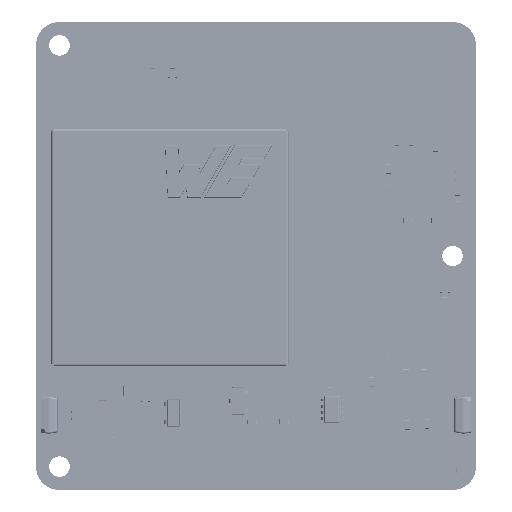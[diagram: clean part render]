
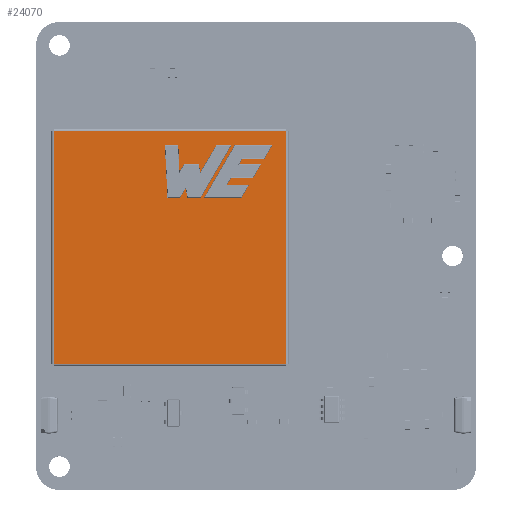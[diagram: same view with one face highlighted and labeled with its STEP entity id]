
A CAD part, top view. The second image highlights one B-rep face of the part: STEP entity #24070.
In plain terms, the highlighted planar face has unit normal (0, 0, 1).
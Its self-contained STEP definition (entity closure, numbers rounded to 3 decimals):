
#24070 = ADVANCED_FACE('',(#24071,#24105,#24203),#24309,.F.);
#24071 = FACE_BOUND('',#24072,.T.);
#24072 = EDGE_LOOP('',(#24073,#24083,#24091,#24099));
#24073 = ORIENTED_EDGE('',*,*,#24074,.F.);
#24074 = EDGE_CURVE('',#24075,#24077,#24079,.T.);
#24075 = VERTEX_POINT('',#24076);
#24076 = CARTESIAN_POINT('',(12.4,-12.4,3.2));
#24077 = VERTEX_POINT('',#24078);
#24078 = CARTESIAN_POINT('',(-12.4,-12.4,3.2));
#24079 = LINE('',#24080,#24081);
#24080 = CARTESIAN_POINT('',(-12.5,-12.4,3.2));
#24081 = VECTOR('',#24082,1.);
#24082 = DIRECTION('',(-1.,0.,0.));
#24083 = ORIENTED_EDGE('',*,*,#24084,.T.);
#24084 = EDGE_CURVE('',#24075,#24085,#24087,.T.);
#24085 = VERTEX_POINT('',#24086);
#24086 = CARTESIAN_POINT('',(12.4,12.4,3.2));
#24087 = LINE('',#24088,#24089);
#24088 = CARTESIAN_POINT('',(12.4,12.4,3.2));
#24089 = VECTOR('',#24090,1.);
#24090 = DIRECTION('',(0.,1.,0.));
#24091 = ORIENTED_EDGE('',*,*,#24092,.T.);
#24092 = EDGE_CURVE('',#24085,#24093,#24095,.T.);
#24093 = VERTEX_POINT('',#24094);
#24094 = CARTESIAN_POINT('',(-12.4,12.4,3.2));
#24095 = LINE('',#24096,#24097);
#24096 = CARTESIAN_POINT('',(-12.5,12.4,3.2));
#24097 = VECTOR('',#24098,1.);
#24098 = DIRECTION('',(-1.,0.,0.));
#24099 = ORIENTED_EDGE('',*,*,#24100,.T.);
#24100 = EDGE_CURVE('',#24093,#24077,#24101,.T.);
#24101 = LINE('',#24102,#24103);
#24102 = CARTESIAN_POINT('',(-12.4,12.4,3.2));
#24103 = VECTOR('',#24104,1.);
#24104 = DIRECTION('',(0.,-1.,0.));
#24105 = FACE_BOUND('',#24106,.T.);
#24106 = EDGE_LOOP('',(#24107,#24117,#24125,#24133,#24141,#24149,#24157,
    #24165,#24173,#24181,#24189,#24197));
#24107 = ORIENTED_EDGE('',*,*,#24108,.T.);
#24108 = EDGE_CURVE('',#24109,#24111,#24113,.T.);
#24109 = VERTEX_POINT('',#24110);
#24110 = CARTESIAN_POINT('',(6.915,10.925,3.2));
#24111 = VERTEX_POINT('',#24112);
#24112 = CARTESIAN_POINT('',(10.944,10.925,3.2));
#24113 = LINE('',#24114,#24115);
#24114 = CARTESIAN_POINT('',(6.915,10.925,3.2));
#24115 = VECTOR('',#24116,1.);
#24116 = DIRECTION('',(1.,0.,0.));
#24117 = ORIENTED_EDGE('',*,*,#24118,.T.);
#24118 = EDGE_CURVE('',#24111,#24119,#24121,.T.);
#24119 = VERTEX_POINT('',#24120);
#24120 = CARTESIAN_POINT('',(10.1,9.492,3.2));
#24121 = LINE('',#24122,#24123);
#24122 = CARTESIAN_POINT('',(10.944,10.925,3.2));
#24123 = VECTOR('',#24124,1.);
#24124 = DIRECTION('',(-0.507,-0.862,0.));
#24125 = ORIENTED_EDGE('',*,*,#24126,.T.);
#24126 = EDGE_CURVE('',#24119,#24127,#24129,.T.);
#24127 = VERTEX_POINT('',#24128);
#24128 = CARTESIAN_POINT('',(7.747,9.492,3.2));
#24129 = LINE('',#24130,#24131);
#24130 = CARTESIAN_POINT('',(10.1,9.492,3.2));
#24131 = VECTOR('',#24132,1.);
#24132 = DIRECTION('',(-1.,0.,0.));
#24133 = ORIENTED_EDGE('',*,*,#24134,.T.);
#24134 = EDGE_CURVE('',#24127,#24135,#24137,.T.);
#24135 = VERTEX_POINT('',#24136);
#24136 = CARTESIAN_POINT('',(7.396,8.896,3.2));
#24137 = LINE('',#24138,#24139);
#24138 = CARTESIAN_POINT('',(7.747,9.492,3.2));
#24139 = VECTOR('',#24140,1.);
#24140 = DIRECTION('',(-0.507,-0.862,0.));
#24141 = ORIENTED_EDGE('',*,*,#24142,.T.);
#24142 = EDGE_CURVE('',#24135,#24143,#24145,.T.);
#24143 = VERTEX_POINT('',#24144);
#24144 = CARTESIAN_POINT('',(9.75,8.896,3.2));
#24145 = LINE('',#24146,#24147);
#24146 = CARTESIAN_POINT('',(7.396,8.896,3.2));
#24147 = VECTOR('',#24148,1.);
#24148 = DIRECTION('',(1.,0.,0.));
#24149 = ORIENTED_EDGE('',*,*,#24150,.T.);
#24150 = EDGE_CURVE('',#24143,#24151,#24153,.T.);
#24151 = VERTEX_POINT('',#24152);
#24152 = CARTESIAN_POINT('',(8.907,7.465,3.2));
#24153 = LINE('',#24154,#24155);
#24154 = CARTESIAN_POINT('',(9.75,8.896,3.2));
#24155 = VECTOR('',#24156,1.);
#24156 = DIRECTION('',(-0.507,-0.862,0.));
#24157 = ORIENTED_EDGE('',*,*,#24158,.T.);
#24158 = EDGE_CURVE('',#24151,#24159,#24161,.T.);
#24159 = VERTEX_POINT('',#24160);
#24160 = CARTESIAN_POINT('',(6.554,7.465,3.2));
#24161 = LINE('',#24162,#24163);
#24162 = CARTESIAN_POINT('',(8.907,7.465,3.2));
#24163 = VECTOR('',#24164,1.);
#24164 = DIRECTION('',(-1.,0.,0.));
#24165 = ORIENTED_EDGE('',*,*,#24166,.T.);
#24166 = EDGE_CURVE('',#24159,#24167,#24169,.T.);
#24167 = VERTEX_POINT('',#24168);
#24168 = CARTESIAN_POINT('',(6.117,6.722,3.2));
#24169 = LINE('',#24170,#24171);
#24170 = CARTESIAN_POINT('',(6.554,7.465,3.2));
#24171 = VECTOR('',#24172,1.);
#24172 = DIRECTION('',(-0.507,-0.862,0.));
#24173 = ORIENTED_EDGE('',*,*,#24174,.T.);
#24174 = EDGE_CURVE('',#24167,#24175,#24177,.T.);
#24175 = VERTEX_POINT('',#24176);
#24176 = CARTESIAN_POINT('',(8.47,6.722,3.2));
#24177 = LINE('',#24178,#24179);
#24178 = CARTESIAN_POINT('',(6.117,6.722,3.2));
#24179 = VECTOR('',#24180,1.);
#24180 = DIRECTION('',(1.,0.,0.));
#24181 = ORIENTED_EDGE('',*,*,#24182,.T.);
#24182 = EDGE_CURVE('',#24175,#24183,#24185,.T.);
#24183 = VERTEX_POINT('',#24184);
#24184 = CARTESIAN_POINT('',(7.643,5.317,3.2));
#24185 = LINE('',#24186,#24187);
#24186 = CARTESIAN_POINT('',(8.47,6.722,3.2));
#24187 = VECTOR('',#24188,1.);
#24188 = DIRECTION('',(-0.507,-0.862,0.));
#24189 = ORIENTED_EDGE('',*,*,#24190,.T.);
#24190 = EDGE_CURVE('',#24183,#24191,#24193,.T.);
#24191 = VERTEX_POINT('',#24192);
#24192 = CARTESIAN_POINT('',(3.647,5.317,3.2));
#24193 = LINE('',#24194,#24195);
#24194 = CARTESIAN_POINT('',(7.643,5.317,3.2));
#24195 = VECTOR('',#24196,1.);
#24196 = DIRECTION('',(-1.,0.,0.));
#24197 = ORIENTED_EDGE('',*,*,#24198,.T.);
#24198 = EDGE_CURVE('',#24191,#24109,#24199,.T.);
#24199 = LINE('',#24200,#24201);
#24200 = CARTESIAN_POINT('',(3.647,5.317,3.2));
#24201 = VECTOR('',#24202,1.);
#24202 = DIRECTION('',(0.504,0.864,0.));
#24203 = FACE_BOUND('',#24204,.T.);
#24204 = EDGE_LOOP('',(#24205,#24215,#24223,#24231,#24239,#24247,#24255,
    #24263,#24271,#24279,#24287,#24295,#24303));
#24205 = ORIENTED_EDGE('',*,*,#24206,.T.);
#24206 = EDGE_CURVE('',#24207,#24209,#24211,.T.);
#24207 = VERTEX_POINT('',#24208);
#24208 = CARTESIAN_POINT('',(1.096,5.317,3.2));
#24209 = VERTEX_POINT('',#24210);
#24210 = CARTESIAN_POINT('',(-0.255,5.317,3.2));
#24211 = LINE('',#24212,#24213);
#24212 = CARTESIAN_POINT('',(1.096,5.317,3.2));
#24213 = VECTOR('',#24214,1.);
#24214 = DIRECTION('',(-1.,0.,0.));
#24215 = ORIENTED_EDGE('',*,*,#24216,.T.);
#24216 = EDGE_CURVE('',#24209,#24217,#24219,.T.);
#24217 = VERTEX_POINT('',#24218);
#24218 = CARTESIAN_POINT('',(-0.548,10.925,3.2));
#24219 = LINE('',#24220,#24221);
#24220 = CARTESIAN_POINT('',(-0.255,5.317,3.2));
#24221 = VECTOR('',#24222,1.);
#24222 = DIRECTION('',(-0.052,0.999,0.));
#24223 = ORIENTED_EDGE('',*,*,#24224,.T.);
#24224 = EDGE_CURVE('',#24217,#24225,#24227,.T.);
#24225 = VERTEX_POINT('',#24226);
#24226 = CARTESIAN_POINT('',(0.901,10.925,3.2));
#24227 = LINE('',#24228,#24229);
#24228 = CARTESIAN_POINT('',(-0.548,10.925,3.2));
#24229 = VECTOR('',#24230,1.);
#24230 = DIRECTION('',(1.,0.,0.));
#24231 = ORIENTED_EDGE('',*,*,#24232,.T.);
#24232 = EDGE_CURVE('',#24225,#24233,#24235,.T.);
#24233 = VERTEX_POINT('',#24234);
#24234 = CARTESIAN_POINT('',(1.034,8.1,3.2));
#24235 = LINE('',#24236,#24237);
#24236 = CARTESIAN_POINT('',(0.901,10.925,3.2));
#24237 = VECTOR('',#24238,1.);
#24238 = DIRECTION('',(0.047,-0.999,0.));
#24239 = ORIENTED_EDGE('',*,*,#24240,.T.);
#24240 = EDGE_CURVE('',#24233,#24241,#24243,.T.);
#24241 = VERTEX_POINT('',#24242);
#24242 = CARTESIAN_POINT('',(1.509,8.896,3.2));
#24243 = LINE('',#24244,#24245);
#24244 = CARTESIAN_POINT('',(1.034,8.1,3.2));
#24245 = VECTOR('',#24246,1.);
#24246 = DIRECTION('',(0.512,0.859,0.));
#24247 = ORIENTED_EDGE('',*,*,#24248,.T.);
#24248 = EDGE_CURVE('',#24241,#24249,#24251,.T.);
#24249 = VERTEX_POINT('',#24250);
#24250 = CARTESIAN_POINT('',(3.097,8.896,3.2));
#24251 = LINE('',#24252,#24253);
#24252 = CARTESIAN_POINT('',(1.509,8.896,3.2));
#24253 = VECTOR('',#24254,1.);
#24254 = DIRECTION('',(1.,0.,0.));
#24255 = ORIENTED_EDGE('',*,*,#24256,.T.);
#24256 = EDGE_CURVE('',#24249,#24257,#24259,.T.);
#24257 = VERTEX_POINT('',#24258);
#24258 = CARTESIAN_POINT('',(3.243,8.055,3.2));
#24259 = LINE('',#24260,#24261);
#24260 = CARTESIAN_POINT('',(3.097,8.896,3.2));
#24261 = VECTOR('',#24262,1.);
#24262 = DIRECTION('',(0.171,-0.985,0.));
#24263 = ORIENTED_EDGE('',*,*,#24264,.T.);
#24264 = EDGE_CURVE('',#24257,#24265,#24267,.T.);
#24265 = VERTEX_POINT('',#24266);
#24266 = CARTESIAN_POINT('',(4.954,10.925,3.2));
#24267 = LINE('',#24268,#24269);
#24268 = CARTESIAN_POINT('',(3.243,8.055,3.2));
#24269 = VECTOR('',#24270,1.);
#24270 = DIRECTION('',(0.512,0.859,0.));
#24271 = ORIENTED_EDGE('',*,*,#24272,.T.);
#24272 = EDGE_CURVE('',#24265,#24273,#24275,.T.);
#24273 = VERTEX_POINT('',#24274);
#24274 = CARTESIAN_POINT('',(6.564,10.925,3.2));
#24275 = LINE('',#24276,#24277);
#24276 = CARTESIAN_POINT('',(4.954,10.925,3.2));
#24277 = VECTOR('',#24278,1.);
#24278 = DIRECTION('',(1.,0.,0.));
#24279 = ORIENTED_EDGE('',*,*,#24280,.T.);
#24280 = EDGE_CURVE('',#24273,#24281,#24283,.T.);
#24281 = VERTEX_POINT('',#24282);
#24282 = CARTESIAN_POINT('',(3.295,5.317,3.2));
#24283 = LINE('',#24284,#24285);
#24284 = CARTESIAN_POINT('',(6.564,10.925,3.2));
#24285 = VECTOR('',#24286,1.);
#24286 = DIRECTION('',(-0.504,-0.864,0.));
#24287 = ORIENTED_EDGE('',*,*,#24288,.T.);
#24288 = EDGE_CURVE('',#24281,#24289,#24291,.T.);
#24289 = VERTEX_POINT('',#24290);
#24290 = CARTESIAN_POINT('',(1.859,5.317,3.2));
#24291 = LINE('',#24292,#24293);
#24292 = CARTESIAN_POINT('',(3.295,5.317,3.2));
#24293 = VECTOR('',#24294,1.);
#24294 = DIRECTION('',(-1.,0.,0.));
#24295 = ORIENTED_EDGE('',*,*,#24296,.T.);
#24296 = EDGE_CURVE('',#24289,#24297,#24299,.T.);
#24297 = VERTEX_POINT('',#24298);
#24298 = CARTESIAN_POINT('',(1.687,6.309,3.2));
#24299 = LINE('',#24300,#24301);
#24300 = CARTESIAN_POINT('',(1.859,5.317,3.2));
#24301 = VECTOR('',#24302,1.);
#24302 = DIRECTION('',(-0.171,0.985,0.));
#24303 = ORIENTED_EDGE('',*,*,#24304,.T.);
#24304 = EDGE_CURVE('',#24297,#24207,#24305,.T.);
#24305 = LINE('',#24306,#24307);
#24306 = CARTESIAN_POINT('',(1.687,6.309,3.2));
#24307 = VECTOR('',#24308,1.);
#24308 = DIRECTION('',(-0.512,-0.859,0.));
#24309 = PLANE('',#24310);
#24310 = AXIS2_PLACEMENT_3D('',#24311,#24312,#24313);
#24311 = CARTESIAN_POINT('',(-12.5,12.4,3.2));
#24312 = DIRECTION('',(0.,0.,-1.));
#24313 = DIRECTION('',(-1.,0.,0.));
